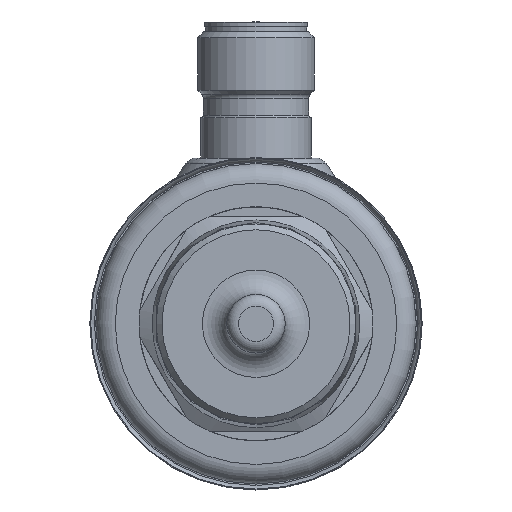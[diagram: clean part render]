
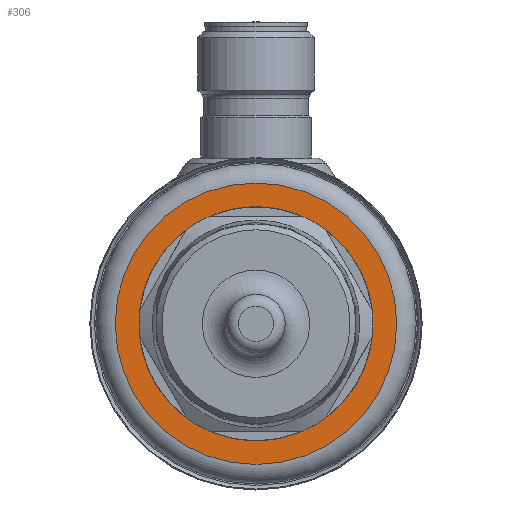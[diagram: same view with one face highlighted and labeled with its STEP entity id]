
A CAD part, front view. The second image highlights one B-rep face of the part: STEP entity #306.
In plain terms, the highlighted planar face has unit normal (0, -1, 0).
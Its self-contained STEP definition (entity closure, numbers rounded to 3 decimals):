
#306 = ADVANCED_FACE( '', ( #718, #719 ), #720, .F. );
#718 = FACE_BOUND( '', #1133, .T. );
#719 = FACE_OUTER_BOUND( '', #1134, .T. );
#720 = PLANE( '', #1135 );
#1133 = EDGE_LOOP( '', ( #2408 ) );
#1134 = EDGE_LOOP( '', ( #2409 ) );
#1135 = AXIS2_PLACEMENT_3D( '', #2410, #2411, #2412 );
#2408 = ORIENTED_EDGE( '', *, *, #2827, .F. );
#2409 = ORIENTED_EDGE( '', *, *, #2826, .T. );
#2410 = CARTESIAN_POINT( '', ( 14.435, 10.7, 0. ) );
#2411 = DIRECTION( '', ( 0., 1., 0. ) );
#2412 = DIRECTION( '', ( -1., 0., 0. ) );
#2826 = EDGE_CURVE( '', #3486, #3486, #3487, .T. );
#2827 = EDGE_CURVE( '', #3488, #3488, #3489, .T. );
#3486 = VERTEX_POINT( '', #4781 );
#3487 = CIRCLE( '', #4782, 14.435 );
#3488 = VERTEX_POINT( '', #4783 );
#3489 = CIRCLE( '', #4784, 12. );
#4781 = CARTESIAN_POINT( '', ( 14.435, 10.7, 0. ) );
#4782 = AXIS2_PLACEMENT_3D( '', #5416, #5417, #5418 );
#4783 = CARTESIAN_POINT( '', ( 12., 10.7, 0. ) );
#4784 = AXIS2_PLACEMENT_3D( '', #5419, #5420, #5421 );
#5416 = CARTESIAN_POINT( '', ( 0., 10.7, 0. ) );
#5417 = DIRECTION( '', ( 0., -1., 0. ) );
#5418 = DIRECTION( '', ( 1., 0., 0. ) );
#5419 = CARTESIAN_POINT( '', ( 0., 10.7, 0. ) );
#5420 = DIRECTION( '', ( 0., -1., 0. ) );
#5421 = DIRECTION( '', ( 1., 0., 0. ) );
